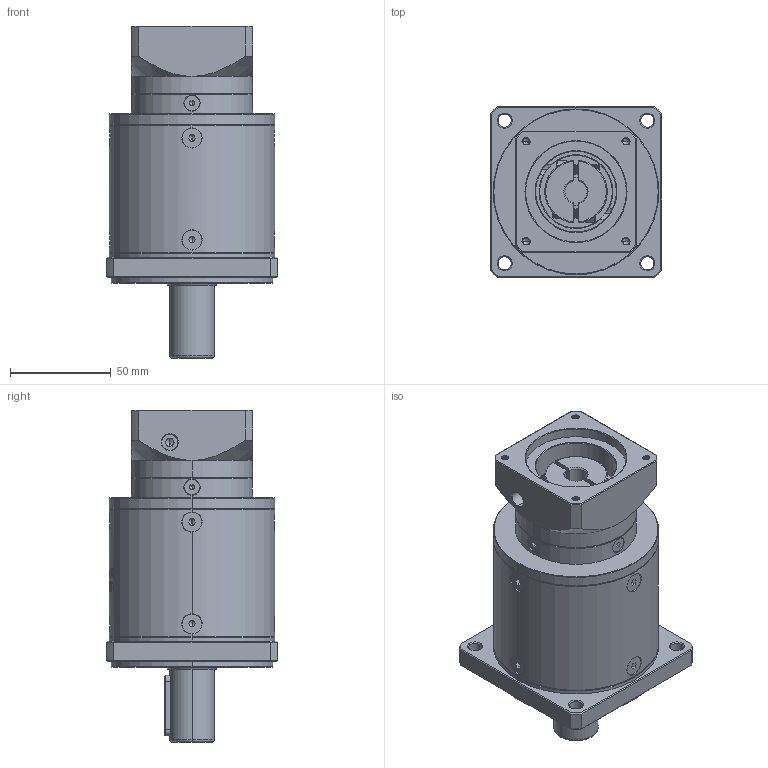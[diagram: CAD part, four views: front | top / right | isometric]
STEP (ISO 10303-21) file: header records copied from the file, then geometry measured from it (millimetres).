
FILE_DESCRIPTION (( 'STEP AP214' ), '1' );
FILE_NAME ('ZF080-D22-L3-P2-11-50-70-M4.step', '2023-08-19T06:56:52', ( '' ), ( '' ), 'SwSTEP 2.0', 'SolidWorks 2016', '' );
FILE_SCHEMA (( 'AUTOMOTIVE_DESIGN' ));
Length unit declared in the file: millimetre
Products named in the file (1): ZF080-D22-L3-P2-11-50-70-M4
Bounding box: 85 x 85 x 164.5 mm (x, y, z)
Volume: 575204.7 mm3; surface area: 72675.3 mm2
Topology: 18 solids, 18 shells, 2261 faces, 5954 edges, 3794 vertices
Faces by surface type: plane 1123, bspline 394, cylinder 375, cone 327, torus 42
Entity records: 116821 total; most frequent: CARTESIAN_POINT 40920, ORIENTED_EDGE 11832, DIRECTION 8907, EDGE_CURVE 5916, VERTEX_POINT 3794, LINE 3133, VECTOR 3133, AXIS2_PLACEMENT_3D 2887
